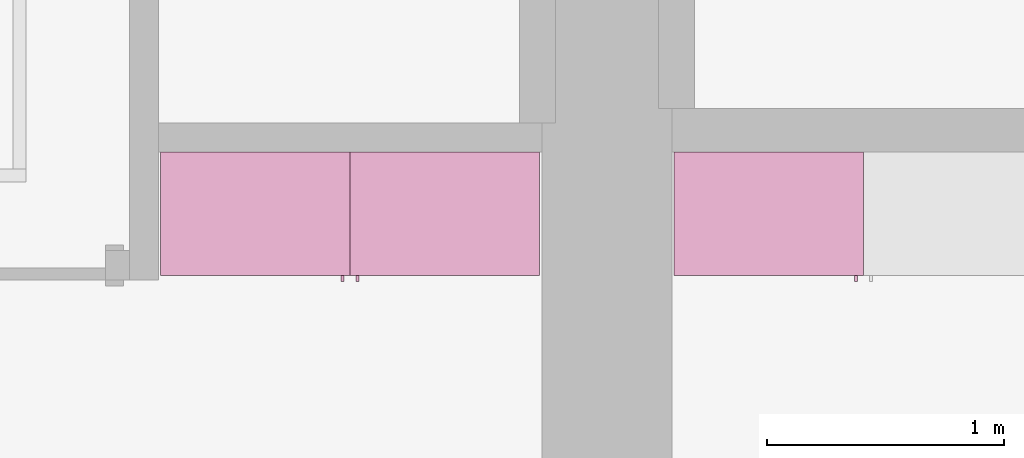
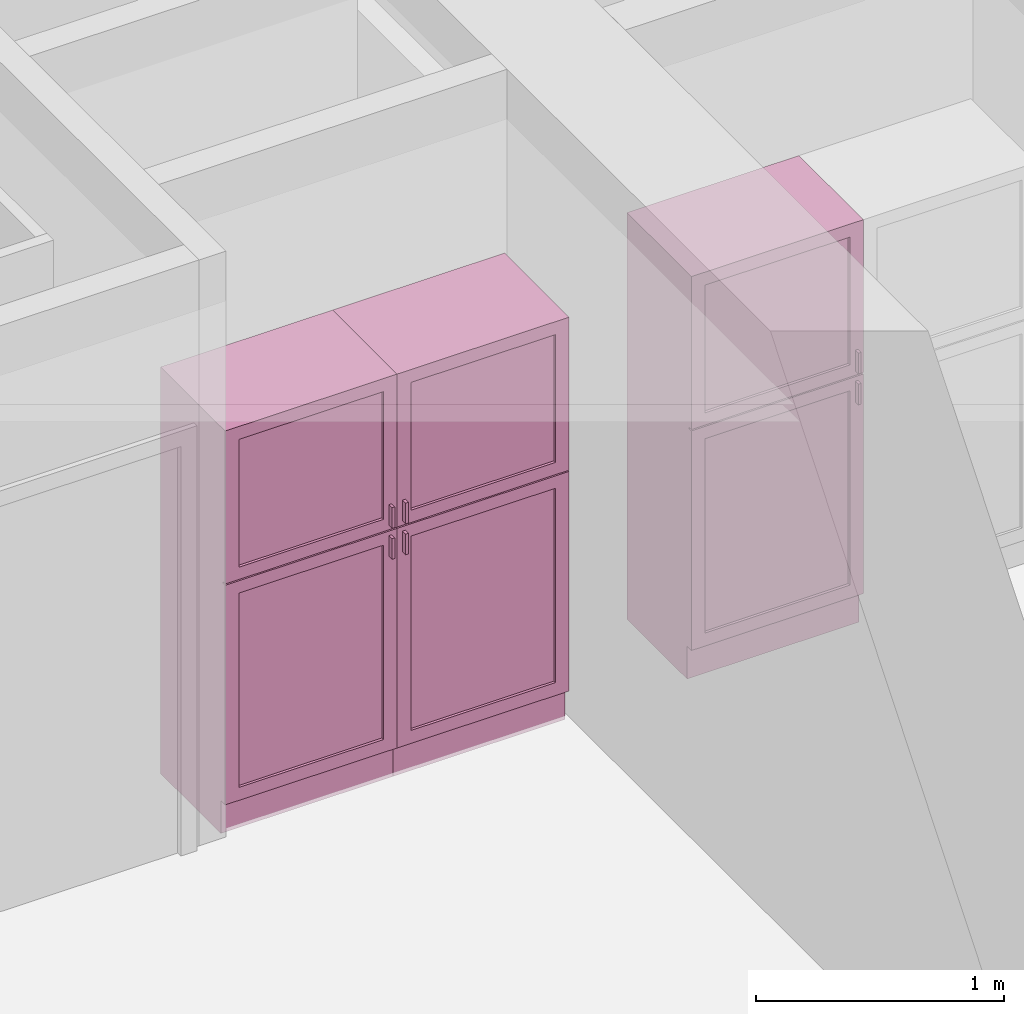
# One storey, part 14 of 16: 3 furnishings, 3 openings.
"""IFC4 building model written with IfcOpenShell, lengths in metres."""

from ifc_helpers import new_model, entity, si_unit, converted_unit, frame, origin, origin_2d_with_axis, place, context, project, spatial, rectangle, extrude, face_set, surface_model, source, transform, mapped, type_object, type_shapes, element, save


model = new_model("IFC4")

# Units and contexts
model_context = context("Model", 3, precision=1e-09, world=origin())
plan_context = context("Plan", 3, precision=1e-09, world=origin())
ifc_project = project(units=[si_unit("LENGTHUNIT", "METRE"), si_unit("AREAUNIT", "SQUARE_METRE"), si_unit("VOLUMEUNIT", "CUBIC_METRE"), converted_unit("PLANEANGLEUNIT", "DEGREE", entity("IfcRatioMeasure", 0.01745329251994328), si_unit("PLANEANGLEUNIT", "RADIAN"), dimensions=[0, 0, 0, 0, 0, 0, 0]), si_unit("TIMEUNIT", "SECOND")], contexts=[model_context, plan_context])

# Site, building, storey, space
site_placement = place(None, origin())
site = spatial("IfcSite", under=ifc_project, at=site_placement, Name="Default", CompositionType="ELEMENT")
building_placement = place(site_placement, origin())
building = spatial("IfcBuilding", under=site, at=building_placement, CompositionType="ELEMENT")
storey_placement = place(building_placement, frame((0.0, 0.0, 3.100000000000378)))
storey = spatial("IfcBuildingStorey", under=building, at=storey_placement, Name="Level 2", CompositionType="ELEMENT", Elevation=3.100000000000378)
space_1_placement = place(storey_placement, origin())
space_1 = spatial("IfcSpace", under=storey, at=space_1_placement, Name="B202", CompositionType="ELEMENT", PredefinedType="SPACE")

# Furnishing, opening
furniture_type_1 = type_object("IfcFurnitureType", Name="800 mm", AssemblyPlace="NOTDEFINED")
shared_shape_1 = source(origin(), model_context, "Body", "SurfaceModel", [
    surface_model("IfcFaceBasedSurfaceModel", [(0.7999999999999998, 0.04444999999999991, 0.1615874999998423), (0.0, 0.04445000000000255, 0.1615874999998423), (0.0, 0.04445000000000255, 2.0), (0.7999999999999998, 0.04444999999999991, 2.0), (0.7809499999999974, 0.04444999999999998, 1.980949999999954), (0.01904999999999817, 0.04445000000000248, 1.980949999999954), (0.01904999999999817, 0.04445000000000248, 0.1806374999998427), (0.7809499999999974, 0.04444999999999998, 0.1806374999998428), (0.0, 0.5454000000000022, 2.0), (0.8000000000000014, 0.5453999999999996, 2.0), (0.8000000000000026, 0.5453999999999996, 0.0), (0.0, 0.5454000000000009, 0.0), (0.780949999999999, 0.5453999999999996, 1.980949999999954), (0.0190499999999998, 0.5454000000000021, 1.980949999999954), (0.0190499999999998, 0.5454000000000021, 0.1806374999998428), (0.780949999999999, 0.5453999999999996, 0.1806374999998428), (0.7999999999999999, 0.06040000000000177, 0.1615874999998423), (0.7999999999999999, 0.06040000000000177, 0.0), (0.0, 0.06040000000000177, 0.0), (0.0, 0.06040000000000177, 0.1615874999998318), (0.7745999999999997, 0.0, 1.371548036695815), (0.7745999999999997, 0.0, 1.269948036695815), (0.7620677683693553, 0.0, 1.269948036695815), (0.7620677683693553, 0.0, 1.371548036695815), (0.7745999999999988, 0.0, 1.219148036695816), (0.7745999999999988, 0.0, 1.117548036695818), (0.7620677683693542, 0.0, 1.117548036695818), (0.7620677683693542, 0.0, 1.219148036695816), (0.7745999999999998, 0.02539999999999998, 1.371548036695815), (0.7745999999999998, 0.02539999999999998, 1.269948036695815), (0.7620677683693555, 0.02540000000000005, 1.269948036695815), (0.7620677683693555, 0.02540000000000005, 1.371548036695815), (0.7745999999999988, 0.02539999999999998, 1.219148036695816), (0.7745999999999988, 0.02539999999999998, 1.117548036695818), (0.7620677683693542, 0.02540000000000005, 1.117548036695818), (0.7620677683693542, 0.02540000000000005, 1.219148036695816), (0.7364999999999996, 0.03810000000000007, 1.936499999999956), (0.7364999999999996, 0.03810000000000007, 1.308048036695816), (0.06350000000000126, 0.03810000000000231, 1.308048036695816), (0.06350000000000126, 0.03810000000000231, 1.936499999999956), (0.736499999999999, 0.03810000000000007, 1.181048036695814), (0.736499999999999, 0.03810000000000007, 0.2250874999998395), (0.06350000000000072, 0.03810000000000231, 0.2250874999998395), (0.06350000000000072, 0.03810000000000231, 1.181048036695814), (0.7364999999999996, 0.04445000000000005, 1.936499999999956), (0.7364999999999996, 0.04445000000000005, 1.308048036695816), (0.06350000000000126, 0.04445000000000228, 1.308048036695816), (0.06350000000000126, 0.04445000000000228, 1.936499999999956), (0.736499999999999, 0.04445000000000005, 1.181048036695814), (0.736499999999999, 0.04445000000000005, 0.2250874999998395), (0.06350000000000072, 0.04445000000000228, 0.2250874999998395), (0.06350000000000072, 0.04445000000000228, 1.181048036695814), (0.8, 0.02539999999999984, 2.0), (0.8, 0.02539999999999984, 1.247723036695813), (0.0, 0.02540000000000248, 1.247723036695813), (0.0, 0.02540000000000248, 2.0), (0.7364999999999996, 0.02540000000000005, 1.936499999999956), (0.0635000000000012, 0.02540000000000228, 1.936499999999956), (0.0635000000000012, 0.02540000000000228, 1.308048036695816), (0.7364999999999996, 0.02540000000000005, 1.308048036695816), (0.7999999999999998, 0.02539999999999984, 0.1615874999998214), (0.0, 0.02540000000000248, 0.1615874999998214), (0.0, 0.02540000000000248, 1.241373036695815), (0.7999999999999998, 0.02539999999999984, 1.241373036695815), (0.736499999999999, 0.02540000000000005, 1.181048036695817), (0.06350000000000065, 0.02540000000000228, 1.181048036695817), (0.06350000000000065, 0.02540000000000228, 0.2250874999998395), (0.736499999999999, 0.02540000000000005, 0.2250874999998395), (0.8000000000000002, 0.04444999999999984, 2.0), (0.8000000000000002, 0.04444999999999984, 1.247723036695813), (0.0, 0.04445000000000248, 1.247723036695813), (0.0, 0.04445000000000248, 2.0), (0.7364999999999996, 0.04445000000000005, 1.936499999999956), (0.06350000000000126, 0.04445000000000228, 1.936499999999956), (0.06350000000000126, 0.04445000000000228, 1.308048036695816), (0.7364999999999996, 0.04445000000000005, 1.308048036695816), (0.7999999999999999, 0.04444999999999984, 0.1615874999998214), (0.0, 0.04445000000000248, 0.1615874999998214), (0.0, 0.04445000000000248, 1.241373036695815), (0.7999999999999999, 0.04444999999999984, 1.241373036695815), (0.736499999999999, 0.04445000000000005, 1.181048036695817), (0.06350000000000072, 0.04445000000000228, 1.181048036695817), (0.06350000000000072, 0.04445000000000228, 0.2250874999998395), (0.736499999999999, 0.04445000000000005, 0.2250874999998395), (0.7809499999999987, 0.5263500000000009, 1.980949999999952), (0.7809499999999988, 0.5263500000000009, 0.1806374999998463), (0.01904999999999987, 0.5263500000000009, 0.1806374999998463), (0.0190499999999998, 0.5263500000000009, 1.980949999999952), (0.7809499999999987, 0.5454000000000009, 1.980949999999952), (0.7809499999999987, 0.5454000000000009, 0.1806374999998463), (0.0190499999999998, 0.5454000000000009, 0.1806374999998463), (0.0190499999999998, 0.5454000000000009, 1.980949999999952)], [face_set([[[0, 1, 2, 3], [4, 5, 6, 7]], [[8, 9, 10, 11], [12, 13, 14, 15]], [[3, 0, 16, 17, 10, 9]], [[2, 8, 9, 3]], [[1, 2, 8, 11, 18, 19]], [[0, 1, 19, 16]], [[7, 15, 12, 4]], [[6, 14, 15, 7]], [[5, 13, 14, 6]], [[4, 5, 13, 12]], [[10, 17, 18, 11]], [[18, 19, 16, 17]]]), face_set([[[20, 21, 22, 23]], [[24, 25, 26, 27]], [[28, 29, 30, 31]], [[32, 33, 34, 35]], [[23, 31, 28, 20]], [[22, 23, 31, 30]], [[21, 22, 30, 29]], [[20, 28, 29, 21]], [[27, 35, 32, 24]], [[26, 27, 35, 34]], [[25, 26, 34, 33]], [[24, 32, 33, 25]]]), face_set([[[36, 37, 38, 39]], [[40, 41, 42, 43]], [[44, 45, 46, 47]], [[48, 49, 50, 51]], [[39, 47, 44, 36]], [[38, 46, 47, 39]], [[37, 38, 46, 45]], [[36, 37, 45, 44]], [[43, 51, 48, 40]], [[42, 50, 51, 43]], [[41, 42, 50, 49]], [[40, 41, 49, 48]]]), face_set([[[52, 53, 54, 55], [56, 57, 58, 59]], [[60, 61, 62, 63], [64, 65, 66, 67]], [[68, 69, 70, 71], [72, 73, 74, 75]], [[76, 77, 78, 79], [80, 81, 82, 83]], [[55, 71, 68, 52]], [[54, 55, 71, 70]], [[53, 54, 70, 69]], [[52, 53, 69, 68]], [[63, 60, 76, 79]], [[62, 78, 79, 63]], [[61, 62, 78, 77]], [[60, 61, 77, 76]], [[59, 75, 72, 56]], [[58, 74, 75, 59]], [[57, 58, 74, 73]], [[56, 57, 73, 72]], [[67, 83, 80, 64]], [[66, 82, 83, 67]], [[65, 66, 82, 81]], [[64, 65, 81, 80]]]), face_set([[[84, 85, 86, 87]], [[88, 89, 90, 91]], [[87, 91, 88, 84]], [[86, 87, 91, 90]], [[85, 86, 90, 89]], [[84, 85, 89, 88]]])]),
])
type_shapes(furniture_type_1, [shared_shape_1])
furnishing_1_placement = place(space_1_placement, frame((2.513999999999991, -11.6794, 0.0)))
furnishing_1 = element("IfcFurnishingElement", 1, at=furnishing_1_placement, inside=space_1, type_object=furniture_type_1, Name="M_Tall Cabinet-Single Door(2):800 mm:800 mm", ObjectType="800 mm", context=model_context, shape_type="MappedRepresentation", body=[
    mapped(shared_shape_1, transform((0.0, 0.0, 0.0), scale=1.0)),
])
opening_1_placement = place(space_1_placement, frame((2.513999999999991, -11.6794, 0.0)))
element("IfcOpeningElement", 2, at=opening_1_placement, cuts=furnishing_1, Name="M_Tall Cabinet-Single Door(2):800 mm:800 mm:1", ObjectType="Opening", context=model_context, shape_type="SweptSolid", body=[
    extrude(rectangle(XDim=1.800312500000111, YDim=0.7618999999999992, at=origin_2d_with_axis()), frame((0.01873770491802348, -0.5009499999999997, -2.01920625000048), z_axis=(0.0, 1.0, 0.0), x_axis=(0.0, 0.0, -1.0)), (0.0, 0.0, 1.0), 0.5009499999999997),
])

furniture_type_2 = type_object("IfcFurnitureType", Name="800 mm", AssemblyPlace="NOTDEFINED")
shared_shape_2 = source(origin(), model_context, "Body", "SurfaceModel", [
    surface_model("IfcFaceBasedSurfaceModel", [(0.7999999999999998, 0.5009500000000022, 0.1615874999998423), (0.7999999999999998, 0.5009500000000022, 2.0), (0.0, 0.5009499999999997, 2.0), (0.0, 0.5009499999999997, 0.1615874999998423), (0.7809499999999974, 0.5009500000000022, 1.980949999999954), (0.7809499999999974, 0.5009500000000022, 0.1806374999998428), (0.01904999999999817, 0.5009499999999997, 0.1806374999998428), (0.01904999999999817, 0.5009499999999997, 1.980949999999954), (0.0, 0.0, 2.0), (0.0, 0.0, 0.0), (0.8000000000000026, 0.0, 0.0), (0.8000000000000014, 0.0, 2.0), (0.780949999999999, 0.0, 1.980949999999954), (0.780949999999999, 0.0, 0.1806374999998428), (0.0190499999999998, 0.0, 0.1806374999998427), (0.0190499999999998, 0.0, 1.980949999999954), (0.8000000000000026, 0.4850000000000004, 0.0), (0.7999999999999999, 0.4850000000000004, 0.1615874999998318), (0.0, 0.4850000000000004, 0.0), (0.0, 0.4850000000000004, 0.1615874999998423), (0.7745999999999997, 0.5454000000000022, 1.371548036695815), (0.7620677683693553, 0.5454000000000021, 1.371548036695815), (0.7620677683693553, 0.5454000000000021, 1.269948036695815), (0.7745999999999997, 0.5454000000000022, 1.269948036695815), (0.7745999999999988, 0.5454000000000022, 1.219148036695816), (0.7620677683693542, 0.5454000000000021, 1.219148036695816), (0.7620677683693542, 0.5454000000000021, 1.117548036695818), (0.7745999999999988, 0.5454000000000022, 1.117548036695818), (0.7745999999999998, 0.5200000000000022, 1.371548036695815), (0.7620677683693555, 0.5200000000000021, 1.371548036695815), (0.7620677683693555, 0.5200000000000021, 1.269948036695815), (0.7745999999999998, 0.5200000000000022, 1.269948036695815), (0.7745999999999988, 0.5200000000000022, 1.219148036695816), (0.7620677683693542, 0.5200000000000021, 1.219148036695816), (0.7620677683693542, 0.5200000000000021, 1.117548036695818), (0.7745999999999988, 0.5200000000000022, 1.117548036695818), (0.7364999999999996, 0.5073000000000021, 1.936499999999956), (0.06350000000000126, 0.5072999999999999, 1.936499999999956), (0.06350000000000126, 0.5072999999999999, 1.308048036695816), (0.7364999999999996, 0.5073000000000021, 1.308048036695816), (0.736499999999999, 0.5073000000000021, 1.181048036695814), (0.06350000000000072, 0.5072999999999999, 1.181048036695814), (0.06350000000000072, 0.5072999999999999, 0.2250874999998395), (0.736499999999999, 0.5073000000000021, 0.2250874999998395), (0.7364999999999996, 0.5009500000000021, 1.936499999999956), (0.06350000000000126, 0.5009499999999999, 1.936499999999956), (0.06350000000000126, 0.5009499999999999, 1.308048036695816), (0.7364999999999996, 0.5009500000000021, 1.308048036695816), (0.736499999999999, 0.5009500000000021, 1.181048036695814), (0.06350000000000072, 0.5009499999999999, 1.181048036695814), (0.06350000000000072, 0.5009499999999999, 0.2250874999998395), (0.736499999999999, 0.5009500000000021, 0.2250874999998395), (0.8, 0.5200000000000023, 2.0), (0.0, 0.5199999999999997, 2.0), (0.0, 0.5199999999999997, 1.247723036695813), (0.8, 0.5200000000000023, 1.247723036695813), (0.7364999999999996, 0.5200000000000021, 1.936499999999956), (0.7364999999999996, 0.5200000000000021, 1.308048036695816), (0.0635000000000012, 0.5199999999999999, 1.308048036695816), (0.0635000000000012, 0.5199999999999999, 1.936499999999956), (0.7999999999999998, 0.5200000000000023, 0.1615874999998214), (0.7999999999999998, 0.5200000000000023, 1.241373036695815), (0.0, 0.5199999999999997, 1.241373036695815), (0.0, 0.5199999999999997, 0.1615874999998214), (0.736499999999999, 0.5200000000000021, 1.181048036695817), (0.736499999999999, 0.5200000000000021, 0.2250874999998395), (0.06350000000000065, 0.5199999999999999, 0.2250874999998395), (0.06350000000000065, 0.5199999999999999, 1.181048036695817), (0.8000000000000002, 0.5009500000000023, 2.0), (0.0, 0.5009499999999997, 2.0), (0.0, 0.5009499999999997, 1.247723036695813), (0.8, 0.5009500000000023, 1.247723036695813), (0.7364999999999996, 0.5009500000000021, 1.936499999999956), (0.7364999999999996, 0.5009500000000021, 1.308048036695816), (0.06350000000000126, 0.5009499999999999, 1.308048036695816), (0.06350000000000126, 0.5009499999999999, 1.936499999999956), (0.7999999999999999, 0.5009500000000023, 0.1615874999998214), (0.7999999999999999, 0.5009500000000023, 1.241373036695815), (0.0, 0.5009499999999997, 1.241373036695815), (0.0, 0.5009499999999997, 0.1615874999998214), (0.736499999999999, 0.5009500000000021, 1.181048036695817), (0.736499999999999, 0.5009500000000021, 0.2250874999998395), (0.06350000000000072, 0.5009499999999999, 0.2250874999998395), (0.06350000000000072, 0.5009499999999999, 1.181048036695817), (0.7809499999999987, 0.01905000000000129, 1.980949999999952), (0.0190499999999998, 0.01905000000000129, 1.980949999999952), (0.0190499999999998, 0.01905000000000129, 0.1806374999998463), (0.7809499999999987, 0.01905000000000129, 0.1806374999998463), (0.7809499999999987, 0.0, 1.980949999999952), (0.0190499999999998, 0.0, 1.980949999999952), (0.01904999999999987, 0.0, 0.1806374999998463), (0.7809499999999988, 0.0, 0.1806374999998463)], [face_set([[[0, 1, 2, 3], [4, 5, 6, 7]], [[8, 9, 10, 11], [12, 13, 14, 15]], [[1, 11, 10, 16, 17, 0]], [[2, 1, 11, 8]], [[3, 2, 8, 9, 18, 19]], [[0, 17, 19, 3]], [[5, 4, 12, 13]], [[6, 5, 13, 14]], [[7, 6, 14, 15]], [[4, 12, 15, 7]], [[10, 9, 18, 16]], [[18, 16, 17, 19]]]), face_set([[[20, 21, 22, 23]], [[24, 25, 26, 27]], [[28, 29, 30, 31]], [[32, 33, 34, 35]], [[21, 20, 28, 29]], [[22, 30, 29, 21]], [[23, 31, 30, 22]], [[20, 23, 31, 28]], [[25, 24, 32, 33]], [[26, 34, 33, 25]], [[27, 35, 34, 26]], [[24, 27, 35, 32]]]), face_set([[[36, 37, 38, 39]], [[40, 41, 42, 43]], [[44, 45, 46, 47]], [[48, 49, 50, 51]], [[37, 36, 44, 45]], [[38, 37, 45, 46]], [[39, 47, 46, 38]], [[36, 44, 47, 39]], [[41, 40, 48, 49]], [[42, 41, 49, 50]], [[43, 51, 50, 42]], [[40, 48, 51, 43]]]), face_set([[[52, 53, 54, 55], [56, 57, 58, 59]], [[60, 61, 62, 63], [64, 65, 66, 67]], [[68, 69, 70, 71], [72, 73, 74, 75]], [[76, 77, 78, 79], [80, 81, 82, 83]], [[53, 52, 68, 69]], [[54, 70, 69, 53]], [[55, 71, 70, 54]], [[52, 68, 71, 55]], [[61, 77, 76, 60]], [[62, 61, 77, 78]], [[63, 79, 78, 62]], [[60, 76, 79, 63]], [[57, 56, 72, 73]], [[58, 57, 73, 74]], [[59, 75, 74, 58]], [[56, 72, 75, 59]], [[65, 64, 80, 81]], [[66, 65, 81, 82]], [[67, 83, 82, 66]], [[64, 80, 83, 67]]]), face_set([[[84, 85, 86, 87]], [[88, 89, 90, 91]], [[85, 84, 88, 89]], [[86, 90, 89, 85]], [[87, 91, 90, 86]], [[84, 88, 91, 87]]])]),
])
type_shapes(furniture_type_2, [shared_shape_2])
furnishing_2_placement = place(space_1_placement, frame((4.113999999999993, -11.134, 0.0), z_axis=(0.0, 0.0, 1.0), x_axis=(-1.0, 0.0, 0.0)))
furnishing_2 = element("IfcFurnishingElement", 3, at=furnishing_2_placement, inside=space_1, type_object=furniture_type_2, Name="M_Tall Cabinet-Single Door(2):800 mm:800 mm", ObjectType="800 mm", context=model_context, shape_type="MappedRepresentation", body=[
    mapped(shared_shape_2, transform((0.0, 0.0, 0.0), scale=1.0)),
])
opening_2_placement = place(space_1_placement, frame((4.113999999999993, -11.134, 0.0), z_axis=(0.0, 0.0, 1.0), x_axis=(-1.0, 0.0, 0.0)))
element("IfcOpeningElement", 4, at=opening_2_placement, cuts=furnishing_2, Name="M_Tall Cabinet-Single Door(2):800 mm:800 mm:1", ObjectType="Opening", context=model_context, shape_type="SweptSolid", body=[
    extrude(rectangle(XDim=1.800312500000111, YDim=0.7618999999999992, at=origin_2d_with_axis()), frame((-0.01873770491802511, 0.0, -2.01920625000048), z_axis=(0.0, -1.0, 0.0), x_axis=(0.0, 0.0, -1.0)), (0.0, 0.0, 1.0), 0.5009499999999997),
])

# Space
space_2_placement = place(storey_placement, origin())
space_2 = spatial("IfcSpace", under=storey, at=space_2_placement, Name="A203", CompositionType="ELEMENT", PredefinedType="SPACE")

# Furnishing, opening
furniture_type_3 = type_object("IfcFurnitureType", Name="800 mm", AssemblyPlace="NOTDEFINED")
shared_shape_3 = source(origin(), model_context, "Body", "SurfaceModel", [
    surface_model("IfcFaceBasedSurfaceModel", [(0.7999999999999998, 0.04444999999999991, 0.1615874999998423), (0.0, 0.04445000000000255, 0.1615874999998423), (0.0, 0.04445000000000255, 2.0), (0.7999999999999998, 0.04444999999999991, 2.0), (0.7809499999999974, 0.04444999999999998, 1.980949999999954), (0.01904999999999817, 0.04445000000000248, 1.980949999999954), (0.01904999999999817, 0.04445000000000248, 0.1806374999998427), (0.7809499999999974, 0.04444999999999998, 0.1806374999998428), (0.0, 0.5454000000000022, 2.0), (0.8000000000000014, 0.5453999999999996, 2.0), (0.8000000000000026, 0.5453999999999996, 0.0), (0.0, 0.5454000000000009, 0.0), (0.780949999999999, 0.5453999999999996, 1.980949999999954), (0.0190499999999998, 0.5454000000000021, 1.980949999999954), (0.0190499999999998, 0.5454000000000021, 0.1806374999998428), (0.780949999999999, 0.5453999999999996, 0.1806374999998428), (0.7999999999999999, 0.06040000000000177, 0.1615874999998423), (0.7999999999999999, 0.06040000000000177, 0.0), (0.0, 0.06040000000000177, 0.0), (0.0, 0.06040000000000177, 0.1615874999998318), (0.7745999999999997, 0.0, 1.371548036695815), (0.7745999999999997, 0.0, 1.269948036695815), (0.7620677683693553, 0.0, 1.269948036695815), (0.7620677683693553, 0.0, 1.371548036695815), (0.7745999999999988, 0.0, 1.219148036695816), (0.7745999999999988, 0.0, 1.117548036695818), (0.7620677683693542, 0.0, 1.117548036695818), (0.7620677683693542, 0.0, 1.219148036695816), (0.7745999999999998, 0.02539999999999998, 1.371548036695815), (0.7745999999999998, 0.02539999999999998, 1.269948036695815), (0.7620677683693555, 0.02540000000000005, 1.269948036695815), (0.7620677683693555, 0.02540000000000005, 1.371548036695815), (0.7745999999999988, 0.02539999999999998, 1.219148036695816), (0.7745999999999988, 0.02539999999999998, 1.117548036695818), (0.7620677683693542, 0.02540000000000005, 1.117548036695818), (0.7620677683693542, 0.02540000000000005, 1.219148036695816), (0.7364999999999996, 0.03810000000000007, 1.936499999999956), (0.7364999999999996, 0.03810000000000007, 1.308048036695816), (0.06350000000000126, 0.03810000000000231, 1.308048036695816), (0.06350000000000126, 0.03810000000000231, 1.936499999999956), (0.736499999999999, 0.03810000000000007, 1.181048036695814), (0.736499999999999, 0.03810000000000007, 0.2250874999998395), (0.06350000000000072, 0.03810000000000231, 0.2250874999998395), (0.06350000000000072, 0.03810000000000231, 1.181048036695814), (0.7364999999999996, 0.04445000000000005, 1.936499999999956), (0.7364999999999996, 0.04445000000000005, 1.308048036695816), (0.06350000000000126, 0.04445000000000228, 1.308048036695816), (0.06350000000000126, 0.04445000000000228, 1.936499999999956), (0.736499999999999, 0.04445000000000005, 1.181048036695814), (0.736499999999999, 0.04445000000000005, 0.2250874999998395), (0.06350000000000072, 0.04445000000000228, 0.2250874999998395), (0.06350000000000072, 0.04445000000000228, 1.181048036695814), (0.8, 0.02539999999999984, 2.0), (0.8, 0.02539999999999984, 1.247723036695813), (0.0, 0.02540000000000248, 1.247723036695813), (0.0, 0.02540000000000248, 2.0), (0.7364999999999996, 0.02540000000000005, 1.936499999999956), (0.0635000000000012, 0.02540000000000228, 1.936499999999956), (0.0635000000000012, 0.02540000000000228, 1.308048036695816), (0.7364999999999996, 0.02540000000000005, 1.308048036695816), (0.7999999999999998, 0.02539999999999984, 0.1615874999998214), (0.0, 0.02540000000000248, 0.1615874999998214), (0.0, 0.02540000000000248, 1.241373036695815), (0.7999999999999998, 0.02539999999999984, 1.241373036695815), (0.736499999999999, 0.02540000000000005, 1.181048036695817), (0.06350000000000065, 0.02540000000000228, 1.181048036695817), (0.06350000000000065, 0.02540000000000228, 0.2250874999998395), (0.736499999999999, 0.02540000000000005, 0.2250874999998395), (0.8000000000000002, 0.04444999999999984, 2.0), (0.8000000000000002, 0.04444999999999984, 1.247723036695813), (0.0, 0.04445000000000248, 1.247723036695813), (0.0, 0.04445000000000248, 2.0), (0.7364999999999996, 0.04445000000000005, 1.936499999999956), (0.06350000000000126, 0.04445000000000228, 1.936499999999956), (0.06350000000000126, 0.04445000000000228, 1.308048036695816), (0.7364999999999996, 0.04445000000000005, 1.308048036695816), (0.7999999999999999, 0.04444999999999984, 0.1615874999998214), (0.0, 0.04445000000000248, 0.1615874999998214), (0.0, 0.04445000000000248, 1.241373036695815), (0.7999999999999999, 0.04444999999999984, 1.241373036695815), (0.736499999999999, 0.04445000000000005, 1.181048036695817), (0.06350000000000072, 0.04445000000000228, 1.181048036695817), (0.06350000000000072, 0.04445000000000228, 0.2250874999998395), (0.736499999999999, 0.04445000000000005, 0.2250874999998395), (0.7809499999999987, 0.5263500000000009, 1.980949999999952), (0.7809499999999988, 0.5263500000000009, 0.1806374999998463), (0.01904999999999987, 0.5263500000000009, 0.1806374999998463), (0.0190499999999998, 0.5263500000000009, 1.980949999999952), (0.7809499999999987, 0.5454000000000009, 1.980949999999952), (0.7809499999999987, 0.5454000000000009, 0.1806374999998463), (0.0190499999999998, 0.5454000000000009, 0.1806374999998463), (0.0190499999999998, 0.5454000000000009, 1.980949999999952)], [face_set([[[0, 1, 2, 3], [4, 5, 6, 7]], [[8, 9, 10, 11], [12, 13, 14, 15]], [[3, 0, 16, 17, 10, 9]], [[2, 8, 9, 3]], [[1, 2, 8, 11, 18, 19]], [[0, 1, 19, 16]], [[7, 15, 12, 4]], [[6, 14, 15, 7]], [[5, 13, 14, 6]], [[4, 5, 13, 12]], [[10, 17, 18, 11]], [[18, 19, 16, 17]]]), face_set([[[20, 21, 22, 23]], [[24, 25, 26, 27]], [[28, 29, 30, 31]], [[32, 33, 34, 35]], [[23, 31, 28, 20]], [[22, 23, 31, 30]], [[21, 22, 30, 29]], [[20, 28, 29, 21]], [[27, 35, 32, 24]], [[26, 27, 35, 34]], [[25, 26, 34, 33]], [[24, 32, 33, 25]]]), face_set([[[36, 37, 38, 39]], [[40, 41, 42, 43]], [[44, 45, 46, 47]], [[48, 49, 50, 51]], [[39, 47, 44, 36]], [[38, 46, 47, 39]], [[37, 38, 46, 45]], [[36, 37, 45, 44]], [[43, 51, 48, 40]], [[42, 50, 51, 43]], [[41, 42, 50, 49]], [[40, 41, 49, 48]]]), face_set([[[52, 53, 54, 55], [56, 57, 58, 59]], [[60, 61, 62, 63], [64, 65, 66, 67]], [[68, 69, 70, 71], [72, 73, 74, 75]], [[76, 77, 78, 79], [80, 81, 82, 83]], [[55, 71, 68, 52]], [[54, 55, 71, 70]], [[53, 54, 70, 69]], [[52, 53, 69, 68]], [[63, 60, 76, 79]], [[62, 78, 79, 63]], [[61, 62, 78, 77]], [[60, 61, 77, 76]], [[59, 75, 72, 56]], [[58, 74, 75, 59]], [[57, 58, 74, 73]], [[56, 57, 73, 72]], [[67, 83, 80, 64]], [[66, 82, 83, 67]], [[65, 66, 82, 81]], [[64, 65, 81, 80]]]), face_set([[[84, 85, 86, 87]], [[88, 89, 90, 91]], [[87, 91, 88, 84]], [[86, 87, 91, 90]], [[85, 86, 90, 89]], [[84, 85, 89, 88]]])]),
])
type_shapes(furniture_type_3, [shared_shape_3])
furnishing_3_placement = place(space_2_placement, frame((4.682999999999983, -11.67940000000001, 0.0)))
furnishing_3 = element("IfcFurnishingElement", 5, at=furnishing_3_placement, inside=space_2, type_object=furniture_type_3, Name="M_Tall Cabinet-Single Door(2):800 mm:800 mm", ObjectType="800 mm", context=model_context, shape_type="MappedRepresentation", body=[
    mapped(shared_shape_3, transform((0.0, 0.0, 0.0), scale=1.0)),
])
opening_3_placement = place(space_2_placement, frame((4.682999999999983, -11.67940000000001, 0.0)))
element("IfcOpeningElement", 6, at=opening_3_placement, cuts=furnishing_3, Name="M_Tall Cabinet-Single Door(2):800 mm:800 mm:1", ObjectType="Opening", context=model_context, shape_type="SweptSolid", body=[
    extrude(rectangle(XDim=1.800312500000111, YDim=0.7618999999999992, at=origin_2d_with_axis()), frame((0.01873770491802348, -0.5009499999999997, -2.01920625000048), z_axis=(0.0, 1.0, 0.0), x_axis=(0.0, 0.0, -1.0)), (0.0, 0.0, 1.0), 0.5009499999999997),
])

save(model, "model.ifc")
